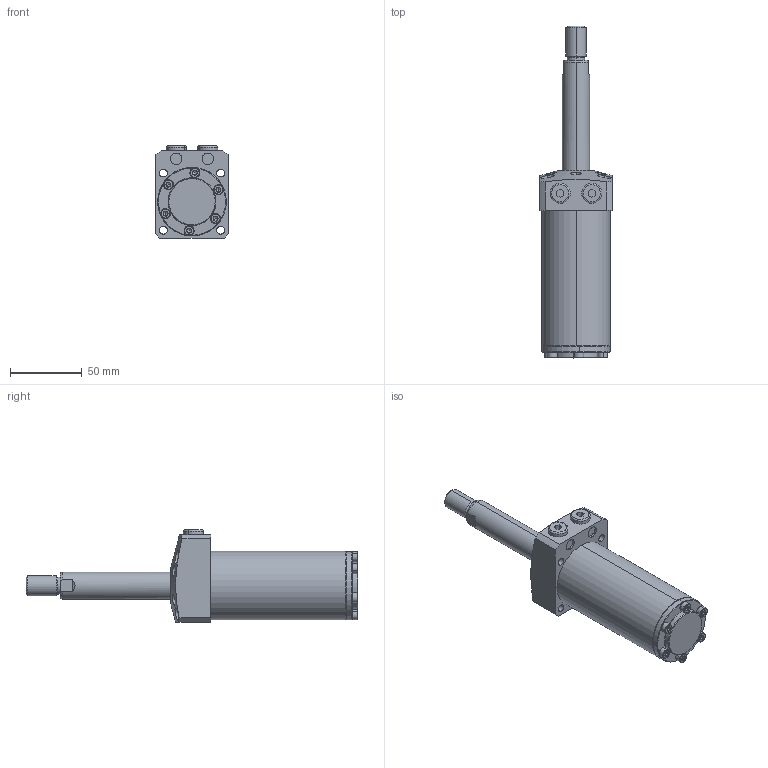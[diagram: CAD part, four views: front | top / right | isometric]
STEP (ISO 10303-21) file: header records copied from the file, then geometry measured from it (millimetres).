
FILE_DESCRIPTION (( 'STEP AP203' ), '1' );
FILE_NAME ('680480-CT-076.STEP', '2019-11-06T04:46:26', ( '微软用户' ), ( '微软中国' ), 'SwSTEP 2.0', 'SolidWorks 2014', '' );
FILE_SCHEMA (( 'CONFIG_CONTROL_DESIGN' ));
Length unit declared in the file: millimetre
Products named in the file (7): 葩璃 680480-CA-51-6^680480-CT-076; 葩璃 680480-15-11^680480-CT-076; 680480-CT-076; 葩璃 680480-CA-51-1^680480-CT-076; 葩璃 680480-CA-51-3^680480-CT-076; 葩璃 680480-CA-51-4^680480-CT-076; 葩璃 680480-CA-51-5^680480-CT-076
Assembly tree (17 placements, depth 2):
  680480-CT-076
    葩璃 680480-CA-51-1^680480-CT-076
    葩璃 680480-CA-51-4^680480-CT-076
    葩璃 680480-CA-51-3^680480-CT-076  x6
    葩璃 680480-CA-51-5^680480-CT-076  x6
    葩璃 680480-CA-51-6^680480-CT-076  x2
    葩璃 680480-15-11^680480-CT-076
Bounding box: 51 x 232 x 64.5 mm (x, y, z)
Volume: 265647.5 mm3; surface area: 51375.2 mm2
Topology: 17 solids, 17 shells, 546 faces, 1030 edges, 539 vertices
Faces by surface type: plane 235, cone 169, cylinder 126, torus 16
Entity records: 7378 total; most frequent: CARTESIAN_POINT 1755, DIRECTION 1057, ORIENTED_EDGE 864, AXIS2_PLACEMENT_3D 441, EDGE_CURVE 432, VERTEX_POINT 257, EDGE_LOOP 253, CIRCLE 211
